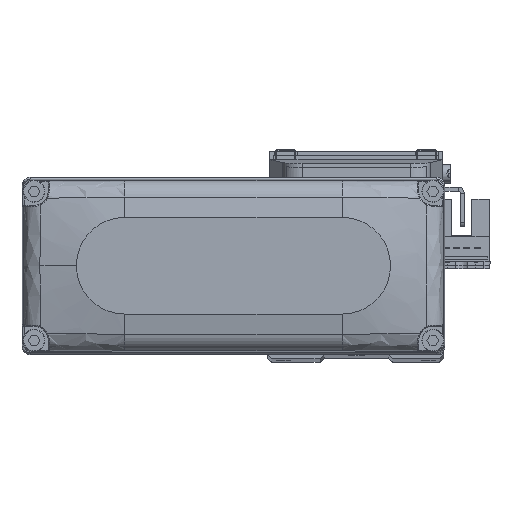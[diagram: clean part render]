
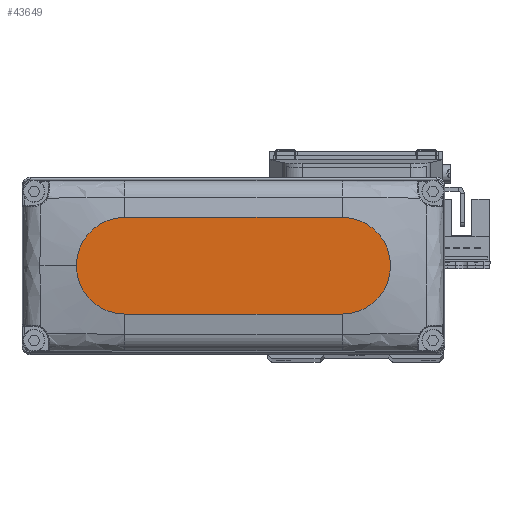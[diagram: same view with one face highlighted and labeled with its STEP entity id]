
A CAD part, top view. The second image highlights one B-rep face of the part: STEP entity #43649.
In plain terms, the highlighted planar face has unit normal (0, 0, 1).
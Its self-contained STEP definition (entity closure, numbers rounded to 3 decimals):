
#477 = LINE ( 'NONE', #24544, #70047 ) ;
#4010 = PLANE ( 'NONE',  #61770 ) ;
#5090 = ORIENTED_EDGE ( 'NONE', *, *, #53299, .T. ) ;
#8480 = CARTESIAN_POINT ( 'NONE',  ( 39., 0., 25. ) ) ;
#14183 = CARTESIAN_POINT ( 'NONE',  ( -27., 12., 25. ) ) ;
#14509 = DIRECTION ( 'NONE',  ( 1., 0., 0. ) ) ;
#15372 = CARTESIAN_POINT ( 'NONE',  ( 27., 0., 25. ) ) ;
#15397 = ORIENTED_EDGE ( 'NONE', *, *, #51003, .T. ) ;
#19506 = CIRCLE ( 'NONE', #63603, 12. ) ;
#22777 = VERTEX_POINT ( 'NONE', #38275 ) ;
#23583 = CARTESIAN_POINT ( 'NONE',  ( -27., 0., 25. ) ) ;
#24544 = CARTESIAN_POINT ( 'NONE',  ( -27., -12., 25. ) ) ;
#25607 = EDGE_CURVE ( 'NONE', #39727, #72554, #19506, .T. ) ;
#27169 = CARTESIAN_POINT ( 'NONE',  ( -27., 12., 25. ) ) ;
#28065 = CARTESIAN_POINT ( 'NONE',  ( 0., 0., 25. ) ) ;
#28700 = AXIS2_PLACEMENT_3D ( 'NONE', #15372, #39434, #63508 ) ;
#29544 = CARTESIAN_POINT ( 'NONE',  ( 27., -12., 25. ) ) ;
#33632 = CARTESIAN_POINT ( 'NONE',  ( -27., -12., 25. ) ) ;
#36931 = EDGE_CURVE ( 'NONE', #44930, #22777, #62716, .T. ) ;
#38259 = DIRECTION ( 'NONE',  ( -1., 0., 0. ) ) ;
#38275 = CARTESIAN_POINT ( 'NONE',  ( 27., 12., 25. ) ) ;
#39434 = DIRECTION ( 'NONE',  ( 0., 0., 1. ) ) ;
#39727 = VERTEX_POINT ( 'NONE', #27169 ) ;
#39777 = AXIS2_PLACEMENT_3D ( 'NONE', #44459, #68561, #14509 ) ;
#43649 = ADVANCED_FACE ( 'NONE', ( #58045 ), #4010, .T. ) ;
#44459 = CARTESIAN_POINT ( 'NONE',  ( 27., 0., 25. ) ) ;
#44930 = VERTEX_POINT ( 'NONE', #8480 ) ;
#47631 = DIRECTION ( 'NONE',  ( 0., 0., 1. ) ) ;
#48086 = ORIENTED_EDGE ( 'NONE', *, *, #25607, .T. ) ;
#48591 = DIRECTION ( 'NONE',  ( 1., 0., 0. ) ) ;
#51003 = EDGE_CURVE ( 'NONE', #22777, #39727, #68248, .T. ) ;
#52124 = DIRECTION ( 'NONE',  ( 0., 0., 1. ) ) ;
#53299 = EDGE_CURVE ( 'NONE', #58775, #44930, #73828, .T. ) ;
#57510 = ORIENTED_EDGE ( 'NONE', *, *, #36931, .T. ) ;
#58045 = FACE_OUTER_BOUND ( 'NONE', #64896, .T. ) ;
#58775 = VERTEX_POINT ( 'NONE', #29544 ) ;
#61770 = AXIS2_PLACEMENT_3D ( 'NONE', #28065, #52124, #76208 ) ;
#62716 = CIRCLE ( 'NONE', #28700, 12. ) ;
#63508 = DIRECTION ( 'NONE',  ( 1., 0., 0. ) ) ;
#63603 = AXIS2_PLACEMENT_3D ( 'NONE', #23583, #47631, #71710 ) ;
#63620 = ORIENTED_EDGE ( 'NONE', *, *, #67324, .T. ) ;
#64896 = EDGE_LOOP ( 'NONE', ( #15397, #48086, #63620, #5090, #57510 ) ) ;
#67324 = EDGE_CURVE ( 'NONE', #72554, #58775, #477, .T. ) ;
#68248 = LINE ( 'NONE', #14183, #74862 ) ;
#68561 = DIRECTION ( 'NONE',  ( 0., 0., 1. ) ) ;
#70047 = VECTOR ( 'NONE', #48591, 1000. ) ;
#71710 = DIRECTION ( 'NONE',  ( 1., 0., 0. ) ) ;
#72554 = VERTEX_POINT ( 'NONE', #33632 ) ;
#73828 = CIRCLE ( 'NONE', #39777, 12. ) ;
#74862 = VECTOR ( 'NONE', #38259, 1000. ) ;
#76208 = DIRECTION ( 'NONE',  ( 1., 0., 0. ) ) ;
